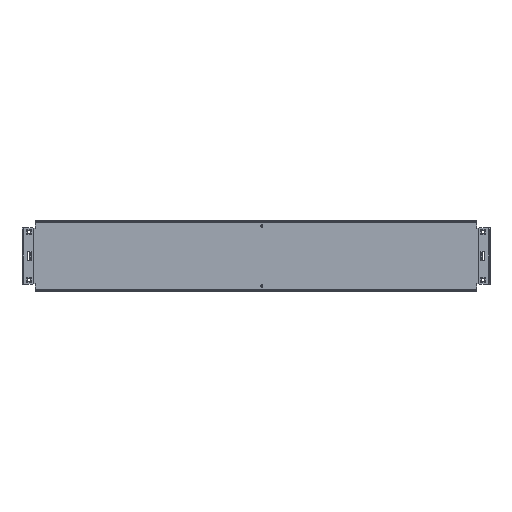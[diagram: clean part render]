
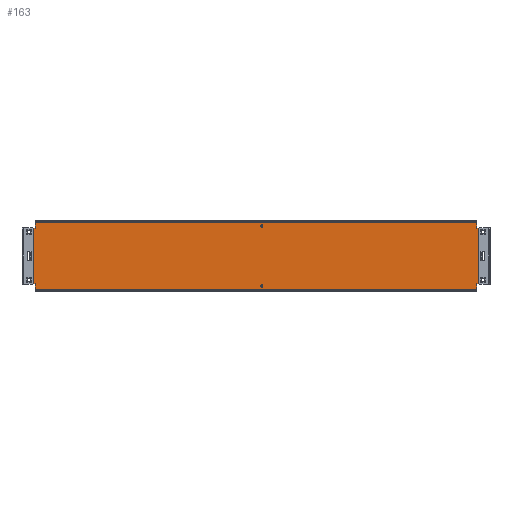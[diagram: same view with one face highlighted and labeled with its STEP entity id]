
A CAD part, top view. The second image highlights one B-rep face of the part: STEP entity #163.
In plain terms, the highlighted planar face has unit normal (0, 0, 1).
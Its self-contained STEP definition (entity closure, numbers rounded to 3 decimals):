
#163=ADVANCED_FACE('',(#1535,#1537,#1539,#1541,#1543,#1545,#1547),#1549,.T.);
#1535=FACE_BOUND('',#1536,.T.);
#1536=EDGE_LOOP('',(#2639,#2640,#2641,#2642,#2643,#2644,#2645,#2646,#2647,#2648,
#2649,#2650,#2651,#2652,#2653,#2654,#2655,#2656,#2657,#2658,#2659,#2660,#2661,#2662,
#2663,#2664,#2665,#2666));
#1537=FACE_BOUND('',#1538,.T.);
#1538=EDGE_LOOP('',(#2667));
#1539=FACE_BOUND('',#1540,.T.);
#1540=EDGE_LOOP('',(#2668));
#1541=FACE_BOUND('',#1542,.T.);
#1542=EDGE_LOOP('',(#2669));
#1543=FACE_BOUND('',#1544,.T.);
#1544=EDGE_LOOP('',(#2670));
#1545=FACE_BOUND('',#1546,.T.);
#1546=EDGE_LOOP('',(#2671));
#1547=FACE_BOUND('',#1548,.T.);
#1548=EDGE_LOOP('',(#2672));
#1549=PLANE('',#1550);
#1550=AXIS2_PLACEMENT_3D('',#1551,#1552,#1553);
#1551=CARTESIAN_POINT('',(0.,0.,0.));
#1552=DIRECTION('',(0.,0.,1.));
#1553=DIRECTION('',(1.,0.,0.));
#2639=ORIENTED_EDGE('',*,*,#3414,.F.);
#2640=ORIENTED_EDGE('',*,*,#3415,.T.);
#2641=ORIENTED_EDGE('',*,*,#3381,.T.);
#2642=ORIENTED_EDGE('',*,*,#3416,.T.);
#2643=ORIENTED_EDGE('',*,*,#3417,.T.);
#2644=ORIENTED_EDGE('',*,*,#3418,.F.);
#2645=ORIENTED_EDGE('',*,*,#3419,.F.);
#2646=ORIENTED_EDGE('',*,*,#3420,.F.);
#2647=ORIENTED_EDGE('',*,*,#3421,.T.);
#2648=ORIENTED_EDGE('',*,*,#3422,.T.);
#2649=ORIENTED_EDGE('',*,*,#3423,.T.);
#2650=ORIENTED_EDGE('',*,*,#3424,.T.);
#2651=ORIENTED_EDGE('',*,*,#3425,.F.);
#2652=ORIENTED_EDGE('',*,*,#3426,.T.);
#2653=ORIENTED_EDGE('',*,*,#3427,.T.);
#2654=ORIENTED_EDGE('',*,*,#3428,.T.);
#2655=ORIENTED_EDGE('',*,*,#3429,.T.);
#2656=ORIENTED_EDGE('',*,*,#3430,.T.);
#2657=ORIENTED_EDGE('',*,*,#3431,.T.);
#2658=ORIENTED_EDGE('',*,*,#3432,.F.);
#2659=ORIENTED_EDGE('',*,*,#3433,.F.);
#2660=ORIENTED_EDGE('',*,*,#3434,.F.);
#2661=ORIENTED_EDGE('',*,*,#3387,.T.);
#2662=ORIENTED_EDGE('',*,*,#3435,.T.);
#2663=ORIENTED_EDGE('',*,*,#3436,.F.);
#2664=ORIENTED_EDGE('',*,*,#3437,.F.);
#2665=ORIENTED_EDGE('',*,*,#3438,.F.);
#2666=ORIENTED_EDGE('',*,*,#3377,.F.);
#2667=ORIENTED_EDGE('',*,*,#3365,.F.);
#2668=ORIENTED_EDGE('',*,*,#3367,.T.);
#2669=ORIENTED_EDGE('',*,*,#3369,.T.);
#2670=ORIENTED_EDGE('',*,*,#3371,.F.);
#2671=ORIENTED_EDGE('',*,*,#3373,.T.);
#2672=ORIENTED_EDGE('',*,*,#3375,.F.);
#3365=EDGE_CURVE('',#3757,#3757,#3758,.T.);
#3367=EDGE_CURVE('',#3761,#3761,#3762,.T.);
#3369=EDGE_CURVE('',#3765,#3765,#3766,.T.);
#3371=EDGE_CURVE('',#3769,#3769,#3770,.T.);
#3373=EDGE_CURVE('',#3773,#3773,#3774,.T.);
#3375=EDGE_CURVE('',#3777,#3777,#3778,.T.);
#3377=EDGE_CURVE('',#3781,#3782,#3783,.T.);
#3381=EDGE_CURVE('',#3789,#3790,#3791,.T.);
#3387=EDGE_CURVE('',#3802,#3800,#3803,.T.);
#3414=EDGE_CURVE('',#3852,#3781,#3853,.T.);
#3415=EDGE_CURVE('',#3852,#3789,#3854,.T.);
#3416=EDGE_CURVE('',#3790,#3855,#3856,.T.);
#3417=EDGE_CURVE('',#3855,#3857,#3858,.T.);
#3418=EDGE_CURVE('',#3859,#3857,#3860,.T.);
#3419=EDGE_CURVE('',#3861,#3859,#3862,.T.);
#3420=EDGE_CURVE('',#3863,#3861,#3864,.T.);
#3421=EDGE_CURVE('',#3863,#3865,#3866,.T.);
#3422=EDGE_CURVE('',#3865,#3867,#3868,.T.);
#3423=EDGE_CURVE('',#3867,#3869,#3870,.T.);
#3424=EDGE_CURVE('',#3869,#3871,#3872,.T.);
#3425=EDGE_CURVE('',#3873,#3871,#3874,.T.);
#3426=EDGE_CURVE('',#3873,#3875,#3876,.T.);
#3427=EDGE_CURVE('',#3875,#3877,#3878,.T.);
#3428=EDGE_CURVE('',#3877,#3879,#3880,.T.);
#3429=EDGE_CURVE('',#3879,#3881,#3882,.T.);
#3430=EDGE_CURVE('',#3881,#3883,#3884,.T.);
#3431=EDGE_CURVE('',#3883,#3885,#3886,.T.);
#3432=EDGE_CURVE('',#3887,#3885,#3888,.T.);
#3433=EDGE_CURVE('',#3889,#3887,#3890,.T.);
#3434=EDGE_CURVE('',#3802,#3889,#3891,.T.);
#3435=EDGE_CURVE('',#3800,#3892,#3893,.T.);
#3436=EDGE_CURVE('',#3894,#3892,#3895,.T.);
#3437=EDGE_CURVE('',#3896,#3894,#3897,.T.);
#3438=EDGE_CURVE('',#3782,#3896,#3898,.T.);
#3757=VERTEX_POINT('',#4401);
#3758=CIRCLE('',#4402,2.3);
#3761=VERTEX_POINT('',#4411);
#3762=CIRCLE('',#4412,2.3);
#3765=VERTEX_POINT('',#4421);
#3766=CIRCLE('',#4422,3.65);
#3769=VERTEX_POINT('',#4431);
#3770=CIRCLE('',#4432,3.65);
#3773=VERTEX_POINT('',#4441);
#3774=CIRCLE('',#4442,3.65);
#3777=VERTEX_POINT('',#4451);
#3778=CIRCLE('',#4452,3.65);
#3781=VERTEX_POINT('',#4461);
#3782=VERTEX_POINT('',#4462);
#3783=LINE('',#4463,#4464);
#3789=VERTEX_POINT('',#4477);
#3790=VERTEX_POINT('',#4478);
#3791=LINE('',#4479,#4480);
#3800=VERTEX_POINT('',#4498);
#3802=VERTEX_POINT('',#4502);
#3803=LINE('',#4503,#4504);
#3852=VERTEX_POINT('',#4606);
#3853=LINE('',#4607,#4608);
#3854=LINE('',#4610,#4611);
#3855=VERTEX_POINT('',#4613);
#3856=LINE('',#4614,#4615);
#3857=VERTEX_POINT('',#4617);
#3858=LINE('',#4618,#4619);
#3859=VERTEX_POINT('',#4621);
#3860=LINE('',#4622,#4623);
#3861=VERTEX_POINT('',#4625);
#3862=LINE('',#4626,#4627);
#3863=VERTEX_POINT('',#4629);
#3864=LINE('',#4630,#4631);
#3865=VERTEX_POINT('',#4633);
#3866=LINE('',#4634,#4635);
#3867=VERTEX_POINT('',#4637);
#3868=LINE('',#4638,#4639);
#3869=VERTEX_POINT('',#4641);
#3870=LINE('',#4642,#4643);
#3871=VERTEX_POINT('',#4645);
#3872=LINE('',#4646,#4647);
#3873=VERTEX_POINT('',#4649);
#3874=LINE('',#4650,#4651);
#3875=VERTEX_POINT('',#4653);
#3876=LINE('',#4654,#4655);
#3877=VERTEX_POINT('',#4657);
#3878=LINE('',#4658,#4659);
#3879=VERTEX_POINT('',#4661);
#3880=LINE('',#4662,#4663);
#3881=VERTEX_POINT('',#4665);
#3882=LINE('',#4666,#4667);
#3883=VERTEX_POINT('',#4669);
#3884=LINE('',#4670,#4671);
#3885=VERTEX_POINT('',#4673);
#3886=LINE('',#4674,#4675);
#3887=VERTEX_POINT('',#4677);
#3888=LINE('',#4678,#4679);
#3889=VERTEX_POINT('',#4681);
#3890=LINE('',#4682,#4683);
#3891=LINE('',#4685,#4686);
#3892=VERTEX_POINT('',#4688);
#3893=LINE('',#4689,#4690);
#3894=VERTEX_POINT('',#4692);
#3895=LINE('',#4693,#4694);
#3896=VERTEX_POINT('',#4696);
#3897=LINE('',#4697,#4698);
#3898=LINE('',#4700,#4701);
#4401=CARTESIAN_POINT('',(9.7,62.1,0.));
#4402=AXIS2_PLACEMENT_3D('',#4403,#4404,#4405);
#4403=CARTESIAN_POINT('',(12.,62.1,0.));
#4404=DIRECTION('',(0.,0.,1.));
#4405=DIRECTION('',(-1.,0.,0.));
#4411=CARTESIAN_POINT('',(9.7,-62.1,0.));
#4412=AXIS2_PLACEMENT_3D('',#4413,#4414,#4415);
#4413=CARTESIAN_POINT('',(12.,-62.1,0.));
#4414=DIRECTION('',(0.,0.,-1.));
#4415=DIRECTION('',(1.,0.,0.));
#4421=CARTESIAN_POINT('',(466.45,50.,0.));
#4422=AXIS2_PLACEMENT_3D('',#4423,#4424,#4425);
#4423=CARTESIAN_POINT('',(470.1,50.,0.));
#4424=DIRECTION('',(0.,0.,-1.));
#4425=DIRECTION('',(1.,0.,0.));
#4431=CARTESIAN_POINT('',(466.45,-50.,0.));
#4432=AXIS2_PLACEMENT_3D('',#4433,#4434,#4435);
#4433=CARTESIAN_POINT('',(470.1,-50.,0.));
#4434=DIRECTION('',(0.,0.,1.));
#4435=DIRECTION('',(-1.,0.,0.));
#4441=CARTESIAN_POINT('',(-473.75,-50.,0.));
#4442=AXIS2_PLACEMENT_3D('',#4443,#4444,#4445);
#4443=CARTESIAN_POINT('',(-470.1,-50.,0.));
#4444=DIRECTION('',(0.,0.,-1.));
#4445=DIRECTION('',(1.,0.,0.));
#4451=CARTESIAN_POINT('',(-473.75,50.,0.));
#4452=AXIS2_PLACEMENT_3D('',#4453,#4454,#4455);
#4453=CARTESIAN_POINT('',(-470.1,50.,0.));
#4454=DIRECTION('',(0.,0.,1.));
#4455=DIRECTION('',(-1.,0.,0.));
#4461=CARTESIAN_POINT('',(465.2,16.,0.));
#4462=CARTESIAN_POINT('',(465.2,7.5,0.));
#4463=CARTESIAN_POINT('',(465.2,16.,0.));
#4464=VECTOR('',#4465,1.);
#4465=DIRECTION('',(0.,-1.,0.));
#4477=CARTESIAN_POINT('',(477.6,23.07,0.));
#4478=CARTESIAN_POINT('',(477.6,57.25,0.));
#4479=CARTESIAN_POINT('',(477.6,23.07,0.));
#4480=VECTOR('',#4481,1.);
#4481=DIRECTION('',(0.,1.,0.));
#4498=CARTESIAN_POINT('',(477.6,-23.07,0.));
#4502=CARTESIAN_POINT('',(477.6,-57.25,0.));
#4503=CARTESIAN_POINT('',(477.6,-57.25,0.));
#4504=VECTOR('',#4505,1.);
#4505=DIRECTION('',(0.,1.,0.));
#4606=CARTESIAN_POINT('',(470.53,16.,0.));
#4607=CARTESIAN_POINT('',(470.53,16.,0.));
#4608=VECTOR('',#4609,1.);
#4609=DIRECTION('',(-1.,0.,0.));
#4610=CARTESIAN_POINT('',(470.53,16.,0.));
#4611=VECTOR('',#4612,1.);
#4612=DIRECTION('',(0.707,0.707,0.));
#4613=CARTESIAN_POINT('',(457.6,57.25,0.));
#4614=CARTESIAN_POINT('',(477.6,57.25,0.));
#4615=VECTOR('',#4616,1.);
#4616=DIRECTION('',(-1.,0.,0.));
#4617=CARTESIAN_POINT('',(457.6,69.1,0.));
#4618=CARTESIAN_POINT('',(457.6,57.25,0.));
#4619=VECTOR('',#4620,1.);
#4620=DIRECTION('',(0.,1.,0.));
#4621=CARTESIAN_POINT('',(-457.6,69.1,0.));
#4622=CARTESIAN_POINT('',(-457.6,69.1,0.));
#4623=VECTOR('',#4624,1.);
#4624=DIRECTION('',(1.,0.,0.));
#4625=CARTESIAN_POINT('',(-457.6,57.25,0.));
#4626=CARTESIAN_POINT('',(-457.6,57.25,0.));
#4627=VECTOR('',#4628,1.);
#4628=DIRECTION('',(0.,1.,0.));
#4629=CARTESIAN_POINT('',(-477.6,57.25,0.));
#4630=CARTESIAN_POINT('',(-477.6,57.25,0.));
#4631=VECTOR('',#4632,1.);
#4632=DIRECTION('',(1.,0.,0.));
#4633=CARTESIAN_POINT('',(-477.6,23.07,0.));
#4634=CARTESIAN_POINT('',(-477.6,57.25,0.));
#4635=VECTOR('',#4636,1.);
#4636=DIRECTION('',(0.,-1.,0.));
#4637=CARTESIAN_POINT('',(-470.53,16.,0.));
#4638=CARTESIAN_POINT('',(-477.6,23.07,0.));
#4639=VECTOR('',#4640,1.);
#4640=DIRECTION('',(0.707,-0.707,0.));
#4641=CARTESIAN_POINT('',(-465.2,16.,0.));
#4642=CARTESIAN_POINT('',(-470.53,16.,0.));
#4643=VECTOR('',#4644,1.);
#4644=DIRECTION('',(1.,0.,0.));
#4645=CARTESIAN_POINT('',(-465.2,7.5,0.));
#4646=CARTESIAN_POINT('',(-465.2,16.,0.));
#4647=VECTOR('',#4648,1.);
#4648=DIRECTION('',(0.,-1.,0.));
#4649=CARTESIAN_POINT('',(-465.2,-7.5,0.));
#4650=CARTESIAN_POINT('',(-465.2,-7.5,0.));
#4651=VECTOR('',#4652,1.);
#4652=DIRECTION('',(0.,1.,0.));
#4653=CARTESIAN_POINT('',(-465.2,-16.,0.));
#4654=CARTESIAN_POINT('',(-465.2,-7.5,0.));
#4655=VECTOR('',#4656,1.);
#4656=DIRECTION('',(0.,-1.,0.));
#4657=CARTESIAN_POINT('',(-470.53,-16.,0.));
#4658=CARTESIAN_POINT('',(-465.2,-16.,0.));
#4659=VECTOR('',#4660,1.);
#4660=DIRECTION('',(-1.,0.,0.));
#4661=CARTESIAN_POINT('',(-477.6,-23.07,0.));
#4662=CARTESIAN_POINT('',(-470.53,-16.,0.));
#4663=VECTOR('',#4664,1.);
#4664=DIRECTION('',(-0.707,-0.707,0.));
#4665=CARTESIAN_POINT('',(-477.6,-57.25,0.));
#4666=CARTESIAN_POINT('',(-477.6,-23.07,0.));
#4667=VECTOR('',#4668,1.);
#4668=DIRECTION('',(0.,-1.,0.));
#4669=CARTESIAN_POINT('',(-457.6,-57.25,0.));
#4670=CARTESIAN_POINT('',(-477.6,-57.25,0.));
#4671=VECTOR('',#4672,1.);
#4672=DIRECTION('',(1.,0.,0.));
#4673=CARTESIAN_POINT('',(-457.6,-69.1,0.));
#4674=CARTESIAN_POINT('',(-457.6,-57.25,0.));
#4675=VECTOR('',#4676,1.);
#4676=DIRECTION('',(0.,-1.,0.));
#4677=CARTESIAN_POINT('',(457.6,-69.1,0.));
#4678=CARTESIAN_POINT('',(457.6,-69.1,0.));
#4679=VECTOR('',#4680,1.);
#4680=DIRECTION('',(-1.,0.,0.));
#4681=CARTESIAN_POINT('',(457.6,-57.25,0.));
#4682=CARTESIAN_POINT('',(457.6,-57.25,0.));
#4683=VECTOR('',#4684,1.);
#4684=DIRECTION('',(0.,-1.,0.));
#4685=CARTESIAN_POINT('',(477.6,-57.25,0.));
#4686=VECTOR('',#4687,1.);
#4687=DIRECTION('',(-1.,0.,0.));
#4688=CARTESIAN_POINT('',(470.53,-16.,0.));
#4689=CARTESIAN_POINT('',(477.6,-23.07,0.));
#4690=VECTOR('',#4691,1.);
#4691=DIRECTION('',(-0.707,0.707,0.));
#4692=CARTESIAN_POINT('',(465.2,-16.,0.));
#4693=CARTESIAN_POINT('',(465.2,-16.,0.));
#4694=VECTOR('',#4695,1.);
#4695=DIRECTION('',(1.,0.,0.));
#4696=CARTESIAN_POINT('',(465.2,-7.5,0.));
#4697=CARTESIAN_POINT('',(465.2,-7.5,0.));
#4698=VECTOR('',#4699,1.);
#4699=DIRECTION('',(0.,-1.,0.));
#4700=CARTESIAN_POINT('',(465.2,7.5,0.));
#4701=VECTOR('',#4702,1.);
#4702=DIRECTION('',(0.,-1.,0.));
